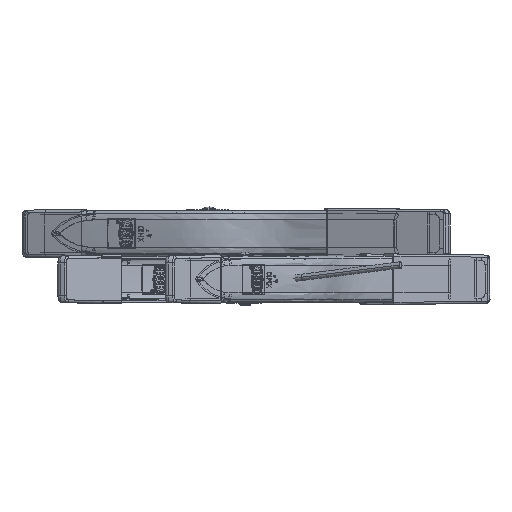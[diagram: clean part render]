
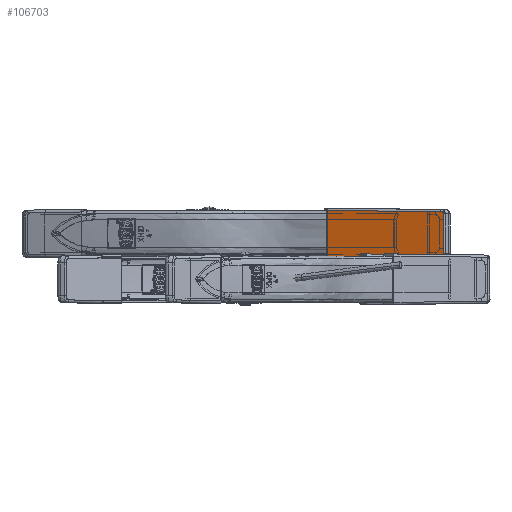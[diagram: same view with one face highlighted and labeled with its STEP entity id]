
A CAD part, front view. The second image highlights one B-rep face of the part: STEP entity #106703.
In plain terms, the highlighted planar face has unit normal (-0.385, -0.923, 0) as drawn and (-0.009, 0, -1) by its records, which use the part's own axes.
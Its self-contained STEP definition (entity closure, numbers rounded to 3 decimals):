
#106051=DIRECTION('',(0.,-1.,0.));
#106052=VECTOR('',#106051,32.);
#106053=CARTESIAN_POINT('',(44.,16.,-5.5));
#106054=LINE('',#106053,#106052);
#106116=DIRECTION('',(-1.,-0.009,0.009));
#106117=VECTOR('',#106116,85.4);
#106118=CARTESIAN_POINT('',(44.,16.,-5.5));
#106119=LINE('',#106118,#106117);
#106123=CARTESIAN_POINT('',(-41.394,15.255,
-4.755));
#106124=CARTESIAN_POINT('',(-41.851,15.251,
-4.751));
#106125=CARTESIAN_POINT('',(-42.766,14.97,
-4.743));
#106126=CARTESIAN_POINT('',(-43.21,14.165,
-4.739));
#106127=CARTESIAN_POINT('',(-43.21,13.75,
-4.739));
#106132=CARTESIAN_POINT('',(-43.21,-13.75,
-4.739));
#106133=CARTESIAN_POINT('',(-43.21,-14.165,
-4.739));
#106134=CARTESIAN_POINT('',(-42.766,-14.97,
-4.743));
#106135=CARTESIAN_POINT('',(-41.851,-15.251,
-4.751));
#106136=CARTESIAN_POINT('',(-41.394,-15.255,
-4.755));
#106141=DIRECTION('',(1.,-0.009,-0.009));
#106142=VECTOR('',#106141,85.4);
#106143=CARTESIAN_POINT('',(-41.394,-15.255,
-4.755));
#106144=LINE('',#106143,#106142);
#106284=DIRECTION('',(0.,1.,0.));
#106285=VECTOR('',#106284,27.5);
#106286=CARTESIAN_POINT('',(-43.21,-13.75,
-4.739));
#106287=LINE('',#106286,#106285);
#106581=CARTESIAN_POINT('',(44.,16.,-5.5));
#106582=CARTESIAN_POINT('',(44.,-16.,-5.5));
#106583=VERTEX_POINT('',#106581);
#106584=VERTEX_POINT('',#106582);
#106610=CARTESIAN_POINT('',(-41.394,15.255,
-4.755));
#106611=VERTEX_POINT('',#106610);
#106612=VERTEX_POINT('',#106127);
#106613=CARTESIAN_POINT('',(-43.21,-13.75,
-4.739));
#106614=VERTEX_POINT('',#106613);
#106615=VERTEX_POINT('',#106136);
#106685=CARTESIAN_POINT('',(44.,-18.75,-5.5));
#106686=DIRECTION('',(0.009,0.,1.));
#106687=DIRECTION('',(0.,-1.,0.));
#106688=AXIS2_PLACEMENT_3D('',#106685,#106686,#106687);
#106689=PLANE('',#106688);
#106690=ORIENTED_EDGE('',*,*,#106656,.F.);
#106692=ORIENTED_EDGE('',*,*,#106691,.T.);
#106694=ORIENTED_EDGE('',*,*,#106693,.T.);
#106696=ORIENTED_EDGE('',*,*,#106695,.F.);
#106698=ORIENTED_EDGE('',*,*,#106697,.T.);
#106700=ORIENTED_EDGE('',*,*,#106699,.T.);
#106701=EDGE_LOOP('',(#106690,#106692,#106694,#106696,#106698,#106700));
#106702=FACE_OUTER_BOUND('',#106701,.F.);
#106128=B_SPLINE_CURVE_WITH_KNOTS('',3,(#106123,#106124,#106125,#106126,
#106127),.UNSPECIFIED.,.F.,.F.,(4,1,4),(0.,0.5,1.),.UNSPECIFIED.);
#106137=B_SPLINE_CURVE_WITH_KNOTS('',3,(#106132,#106133,#106134,#106135,
#106136),.UNSPECIFIED.,.F.,.F.,(4,1,4),(0.,0.5,1.),.UNSPECIFIED.);
#106656=EDGE_CURVE('',#106583,#106584,#106054,.T.);
#106691=EDGE_CURVE('',#106583,#106611,#106119,.T.);
#106693=EDGE_CURVE('',#106611,#106612,#106128,.T.);
#106695=EDGE_CURVE('',#106614,#106612,#106287,.T.);
#106697=EDGE_CURVE('',#106614,#106615,#106137,.T.);
#106699=EDGE_CURVE('',#106615,#106584,#106144,.T.);
#106703=ADVANCED_FACE('',(#106702),#106689,.F.);
